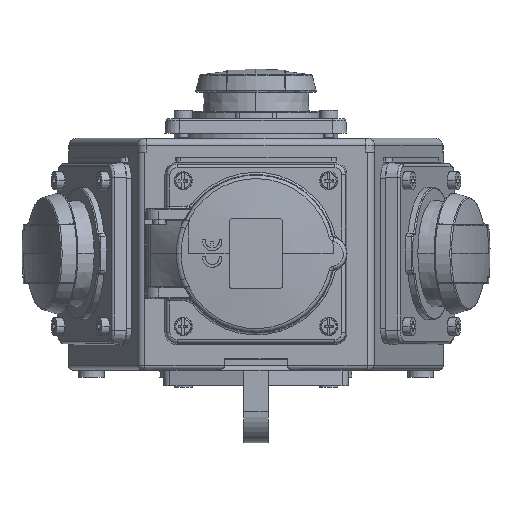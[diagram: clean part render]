
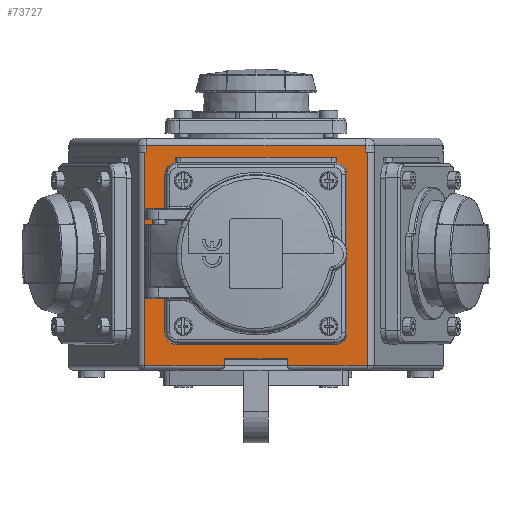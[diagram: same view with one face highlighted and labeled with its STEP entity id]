
A CAD part, front view. The second image highlights one B-rep face of the part: STEP entity #73727.
In plain terms, the highlighted planar face has unit normal (0, -1, 0).
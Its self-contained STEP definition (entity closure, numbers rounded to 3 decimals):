
#5949=DIRECTION('',(0.,0.,1.));
#5950=VECTOR('',#5949,2.5);
#5951=CARTESIAN_POINT('',(13.,-66.06,-46.));
#5952=LINE('3787',#5951,#5950);
#5956=DIRECTION('',(1.,0.,0.));
#5957=VECTOR('',#5956,26.);
#5958=CARTESIAN_POINT('',(-13.,-66.06,-43.5));
#5959=LINE('3789',#5958,#5957);
#5963=DIRECTION('',(0.,0.,1.));
#5964=VECTOR('',#5963,2.5);
#5965=CARTESIAN_POINT('',(-13.,-66.06,-46.));
#5966=LINE('3788',#5965,#5964);
#5970=DIRECTION('',(-1.,0.,0.));
#5971=VECTOR('',#5970,32.82);
#5972=CARTESIAN_POINT('',(-13.,-66.06,-46.));
#5973=LINE('3799',#5972,#5971);
#5977=DIRECTION('',(0.,0.,1.));
#5978=VECTOR('',#5977,87.8);
#5979=CARTESIAN_POINT('',(-45.82,-66.06,
-46.));
#5980=LINE('3007',#5979,#5978);
#5984=DIRECTION('',(0.,0.,-1.));
#5985=VECTOR('',#5984,2.7);
#5986=CARTESIAN_POINT('',(-45.094,-66.06,44.5));
#5987=LINE('3388',#5986,#5985);
#5991=DIRECTION('',(1.,0.,0.));
#5992=VECTOR('',#5991,90.187);
#5993=CARTESIAN_POINT('',(-45.094,-66.06,44.5));
#5994=LINE('3331',#5993,#5992);
#5998=DIRECTION('',(0.,0.,-1.));
#5999=VECTOR('',#5998,2.7);
#6000=CARTESIAN_POINT('',(45.094,-66.06,44.5));
#6001=LINE('3389',#6000,#5999);
#6005=DIRECTION('',(-1.,0.,0.));
#6006=VECTOR('',#6005,32.82);
#6007=CARTESIAN_POINT('',(45.82,-66.06,
-46.));
#6008=LINE('3798',#6007,#6006);
#6012=DIRECTION('',(0.,0.,-1.));
#6013=VECTOR('',#6012,2.);
#6014=CARTESIAN_POINT('',(-33.,-66.06,39.7));
#6015=LINE('2740',#6014,#6013);
#6019=DIRECTION('',(1.,0.,0.));
#6020=VECTOR('',#6019,66.);
#6021=CARTESIAN_POINT('',(-33.,-66.06,37.7));
#6022=LINE('2741',#6021,#6020);
#6026=DIRECTION('',(0.,0.,1.));
#6027=VECTOR('',#6026,2.);
#6028=CARTESIAN_POINT('',(33.,-66.06,37.7));
#6029=LINE('2742',#6028,#6027);
#6033=DIRECTION('',(-1.,0.,0.));
#6034=VECTOR('',#6033,66.);
#6035=CARTESIAN_POINT('',(33.,-66.06,39.7));
#6036=LINE('2743',#6035,#6034);
#6040=CARTESIAN_POINT('',(0.,-66.06,0.));
#6041=DIRECTION('',(0.,1.,0.));
#6042=DIRECTION('',(0.,0.,-1.));
#6043=AXIS2_PLACEMENT_3D('',#6040,#6041,#6042);
#6048=CARTESIAN_POINT('',(0.,-66.06,0.));
#6049=DIRECTION('',(0.,1.,0.));
#6050=DIRECTION('',(0.,0.,1.));
#6051=AXIS2_PLACEMENT_3D('',#6048,#6049,#6050);
#6056=CARTESIAN_POINT('',(-30.,-66.06,30.));
#6057=DIRECTION('',(0.,-1.,0.));
#6058=DIRECTION('',(0.,0.,1.));
#6059=AXIS2_PLACEMENT_3D('',#6056,#6057,#6058);
#6064=CARTESIAN_POINT('',(-30.,-66.06,30.));
#6065=DIRECTION('',(0.,-1.,0.));
#6066=DIRECTION('',(0.,0.,-1.));
#6067=AXIS2_PLACEMENT_3D('',#6064,#6065,#6066);
#6072=CARTESIAN_POINT('',(30.,-66.06,30.));
#6073=DIRECTION('',(0.,-1.,0.));
#6074=DIRECTION('',(0.,0.,1.));
#6075=AXIS2_PLACEMENT_3D('',#6072,#6073,#6074);
#6080=CARTESIAN_POINT('',(30.,-66.06,30.));
#6081=DIRECTION('',(0.,-1.,0.));
#6082=DIRECTION('',(0.,0.,-1.));
#6083=AXIS2_PLACEMENT_3D('',#6080,#6081,#6082);
#6088=CARTESIAN_POINT('',(-30.,-66.06,-30.));
#6089=DIRECTION('',(0.,-1.,0.));
#6090=DIRECTION('',(0.,0.,1.));
#6091=AXIS2_PLACEMENT_3D('',#6088,#6089,#6090);
#6096=CARTESIAN_POINT('',(-30.,-66.06,-30.));
#6097=DIRECTION('',(0.,-1.,0.));
#6098=DIRECTION('',(0.,0.,-1.));
#6099=AXIS2_PLACEMENT_3D('',#6096,#6097,#6098);
#6104=CARTESIAN_POINT('',(30.,-66.06,-30.));
#6105=DIRECTION('',(0.,-1.,0.));
#6106=DIRECTION('',(0.,0.,1.));
#6107=AXIS2_PLACEMENT_3D('',#6104,#6105,#6106);
#6112=CARTESIAN_POINT('',(30.,-66.06,-30.));
#6113=DIRECTION('',(0.,-1.,0.));
#6114=DIRECTION('',(0.,0.,-1.));
#6115=AXIS2_PLACEMENT_3D('',#6112,#6113,#6114);
#8173=DIRECTION('',(1.,0.,0.));
#8174=VECTOR('',#8173,0.727);
#8175=CARTESIAN_POINT('',(45.094,-66.06,41.8));
#8176=LINE('3370',#8175,#8174);
#8462=DIRECTION('',(1.,0.,0.));
#8463=VECTOR('',#8462,0.727);
#8464=CARTESIAN_POINT('',(-45.82,-66.06,41.8));
#8465=LINE('3369',#8464,#8463);
#34173=DIRECTION('',(0.,0.,1.));
#34174=VECTOR('',#34173,87.8);
#34175=CARTESIAN_POINT('',(45.82,-66.06,
-46.));
#34176=LINE('3008',#34175,#34174);
#59195=CARTESIAN_POINT('',(45.82,-66.06,-46.));
#59196=VERTEX_POINT('',#59195);
#59197=CARTESIAN_POINT('',(-45.82,-66.06,-46.));
#59198=VERTEX_POINT('',#59197);
#59271=CARTESIAN_POINT('',(-33.,-66.06,39.7));
#59272=CARTESIAN_POINT('',(-33.,-66.06,37.7));
#59273=VERTEX_POINT('',#59271);
#59274=VERTEX_POINT('',#59272);
#59275=CARTESIAN_POINT('',(33.,-66.06,37.7));
#59276=VERTEX_POINT('',#59275);
#59277=CARTESIAN_POINT('',(33.,-66.06,39.7));
#59278=VERTEX_POINT('',#59277);
#59567=CARTESIAN_POINT('',(-45.82,-66.06,41.8));
#59569=VERTEX_POINT('',#59567);
#59570=CARTESIAN_POINT('',(45.82,-66.06,41.8));
#59572=VERTEX_POINT('',#59570);
#59978=CARTESIAN_POINT('',(-45.094,-66.06,44.5));
#59979=VERTEX_POINT('',#59978);
#59982=CARTESIAN_POINT('',(45.094,-66.06,44.5));
#59983=VERTEX_POINT('',#59982);
#60028=CARTESIAN_POINT('',(-45.094,-66.06,41.8));
#60030=VERTEX_POINT('',#60028);
#60033=CARTESIAN_POINT('',(45.094,-66.06,41.8));
#60035=VERTEX_POINT('',#60033);
#60468=CARTESIAN_POINT('',(13.,-66.06,-46.));
#60469=CARTESIAN_POINT('',(13.,-66.06,-43.5));
#60470=VERTEX_POINT('',#60468);
#60471=VERTEX_POINT('',#60469);
#60472=CARTESIAN_POINT('',(-13.,-66.06,-46.));
#60473=CARTESIAN_POINT('',(-13.,-66.06,-43.5));
#60474=VERTEX_POINT('',#60472);
#60475=VERTEX_POINT('',#60473);
#65106=CARTESIAN_POINT('',(0.,-66.06,-29.248));
#65107=CARTESIAN_POINT('',(0.,-66.06,29.248));
#65108=VERTEX_POINT('',#65106);
#65109=VERTEX_POINT('',#65107);
#65490=CARTESIAN_POINT('',(-30.,-66.06,32.5));
#65491=CARTESIAN_POINT('',(-30.,-66.06,27.5));
#65492=VERTEX_POINT('',#65490);
#65493=VERTEX_POINT('',#65491);
#65580=CARTESIAN_POINT('',(30.,-66.06,32.5));
#65581=CARTESIAN_POINT('',(30.,-66.06,27.5));
#65582=VERTEX_POINT('',#65580);
#65583=VERTEX_POINT('',#65581);
#65670=CARTESIAN_POINT('',(-30.,-66.06,-27.5));
#65671=CARTESIAN_POINT('',(-30.,-66.06,-32.5));
#65672=VERTEX_POINT('',#65670);
#65673=VERTEX_POINT('',#65671);
#65760=CARTESIAN_POINT('',(30.,-66.06,-27.5));
#65761=CARTESIAN_POINT('',(30.,-66.06,-32.5));
#65762=VERTEX_POINT('',#65760);
#65763=VERTEX_POINT('',#65761);
#73657=CARTESIAN_POINT('',(48.,-66.06,40.5));
#73658=DIRECTION('',(0.,-1.,0.));
#73659=DIRECTION('',(-1.,0.,0.));
#73660=AXIS2_PLACEMENT_3D('',#73657,#73658,#73659);
#73661=PLANE('30',#73660);
#73663=ORIENTED_EDGE('3787',*,*,#73662,.T.);
#73665=ORIENTED_EDGE('3789',*,*,#73664,.F.);
#73667=ORIENTED_EDGE('3788',*,*,#73666,.F.);
#73669=ORIENTED_EDGE('3799',*,*,#73668,.T.);
#73671=ORIENTED_EDGE('3007',*,*,#73670,.T.);
#73673=ORIENTED_EDGE('3369',*,*,#73672,.T.);
#73675=ORIENTED_EDGE('3388',*,*,#73674,.F.);
#73677=ORIENTED_EDGE('3331',*,*,#73676,.T.);
#73679=ORIENTED_EDGE('3389',*,*,#73678,.T.);
#73681=ORIENTED_EDGE('3370',*,*,#73680,.T.);
#73683=ORIENTED_EDGE('3008',*,*,#73682,.F.);
#73685=ORIENTED_EDGE('3798',*,*,#73684,.T.);
#73686=EDGE_LOOP('30',(#73663,#73665,#73667,#73669,#73671,#73673,#73675,#73677,
#73679,#73681,#73683,#73685));
#73687=FACE_OUTER_BOUND('30',#73686,.F.);
#73689=ORIENTED_EDGE('2740',*,*,#73688,.T.);
#73691=ORIENTED_EDGE('2741',*,*,#73690,.T.);
#73693=ORIENTED_EDGE('2742',*,*,#73692,.T.);
#73695=ORIENTED_EDGE('2743',*,*,#73694,.T.);
#73696=EDGE_LOOP('30',(#73689,#73691,#73693,#73695));
#73697=FACE_BOUND('30',#73696,.F.);
#73699=ORIENTED_EDGE('8669',*,*,#73698,.F.);
#73701=ORIENTED_EDGE('8670',*,*,#73700,.F.);
#73702=EDGE_LOOP('30',(#73699,#73701));
#73703=FACE_BOUND('30',#73702,.F.);
#73705=ORIENTED_EDGE('9048',*,*,#73704,.T.);
#73707=ORIENTED_EDGE('9049',*,*,#73706,.T.);
#73708=EDGE_LOOP('30',(#73705,#73707));
#73709=FACE_BOUND('30',#73708,.F.);
#73711=ORIENTED_EDGE('9127',*,*,#73710,.T.);
#73713=ORIENTED_EDGE('9128',*,*,#73712,.T.);
#73714=EDGE_LOOP('30',(#73711,#73713));
#73715=FACE_BOUND('30',#73714,.F.);
#73717=ORIENTED_EDGE('9206',*,*,#73716,.T.);
#73718=ORIENTED_EDGE('9207',*,*,#73635,.T.);
#73719=EDGE_LOOP('30',(#73717,#73718));
#73720=FACE_BOUND('30',#73719,.F.);
#73722=ORIENTED_EDGE('9285',*,*,#73721,.T.);
#73724=ORIENTED_EDGE('9286',*,*,#73723,.T.);
#73725=EDGE_LOOP('30',(#73722,#73724));
#73726=FACE_BOUND('30',#73725,.F.);
#6044=CIRCLE('8669',#6043,29.248);
#6052=CIRCLE('8670',#6051,29.248);
#6060=CIRCLE('9048',#6059,2.5);
#6068=CIRCLE('9049',#6067,2.5);
#6076=CIRCLE('9127',#6075,2.5);
#6084=CIRCLE('9128',#6083,2.5);
#6092=CIRCLE('9206',#6091,2.5);
#6100=CIRCLE('9207',#6099,2.5);
#6108=CIRCLE('9285',#6107,2.5);
#6116=CIRCLE('9286',#6115,2.5);
#73635=EDGE_CURVE('9207',#65673,#65672,#6100,.T.);
#73662=EDGE_CURVE('3787',#60470,#60471,#5952,.T.);
#73664=EDGE_CURVE('3789',#60475,#60471,#5959,.T.);
#73666=EDGE_CURVE('3788',#60474,#60475,#5966,.T.);
#73668=EDGE_CURVE('3799',#60474,#59198,#5973,.T.);
#73670=EDGE_CURVE('3007',#59198,#59569,#5980,.T.);
#73672=EDGE_CURVE('3369',#59569,#60030,#8465,.T.);
#73674=EDGE_CURVE('3388',#59979,#60030,#5987,.T.);
#73676=EDGE_CURVE('3331',#59979,#59983,#5994,.T.);
#73678=EDGE_CURVE('3389',#59983,#60035,#6001,.T.);
#73680=EDGE_CURVE('3370',#60035,#59572,#8176,.T.);
#73682=EDGE_CURVE('3008',#59196,#59572,#34176,.T.);
#73684=EDGE_CURVE('3798',#59196,#60470,#6008,.T.);
#73688=EDGE_CURVE('2740',#59273,#59274,#6015,.T.);
#73690=EDGE_CURVE('2741',#59274,#59276,#6022,.T.);
#73692=EDGE_CURVE('2742',#59276,#59278,#6029,.T.);
#73694=EDGE_CURVE('2743',#59278,#59273,#6036,.T.);
#73698=EDGE_CURVE('8669',#65108,#65109,#6044,.T.);
#73700=EDGE_CURVE('8670',#65109,#65108,#6052,.T.);
#73704=EDGE_CURVE('9048',#65492,#65493,#6060,.T.);
#73706=EDGE_CURVE('9049',#65493,#65492,#6068,.T.);
#73710=EDGE_CURVE('9127',#65582,#65583,#6076,.T.);
#73712=EDGE_CURVE('9128',#65583,#65582,#6084,.T.);
#73716=EDGE_CURVE('9206',#65672,#65673,#6092,.T.);
#73721=EDGE_CURVE('9285',#65762,#65763,#6108,.T.);
#73723=EDGE_CURVE('9286',#65763,#65762,#6116,.T.);
#73727=ADVANCED_FACE('30',(#73687,#73697,#73703,#73709,#73715,#73720,#73726),
#73661,.T.);
